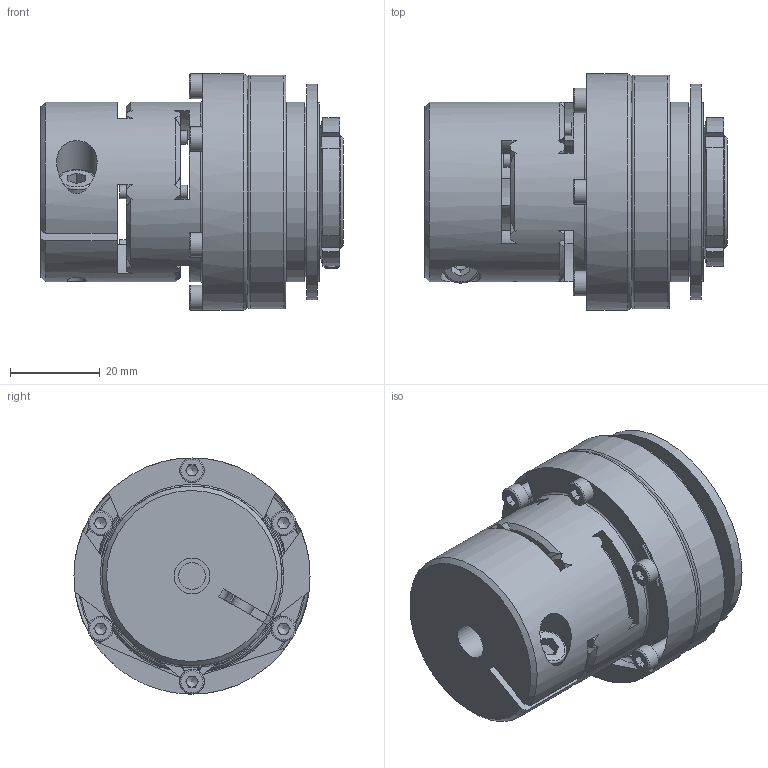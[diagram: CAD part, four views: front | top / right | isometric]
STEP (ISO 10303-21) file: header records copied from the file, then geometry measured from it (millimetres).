
FILE_DESCRIPTION( ( 'Unknown' ), '1' );
FILE_NAME( 'F:/JAKOB-STEP+IGES-Dateien/STEP-Dateien/SKW-EK/SKW-EK 6.stp', 'Unknown', ( 'Unknown' ), ( 'Unknown' ), 'PSStep 10.1', 'Unknown', ' ' );
FILE_SCHEMA( ( 'AUTOMOTIVE_DESIGN { 1 0 10303 214 1 1 1 1 }' ) );
Length unit declared in the file: millimetre
Products named in the file (1): kt102551
Bounding box: 67.2 x 52.5 x 52.5 mm (x, y, z)
Volume: 82322.3 mm3; surface area: 33221.6 mm2
Topology: 1 solids, 11 shells, 447 faces, 1208 edges, 772 vertices
Faces by surface type: plane 199, cylinder 128, cone 64, torus 46, sphere 10
Full cylindrical faces by diameter (mm): 1.5 x2, 2.5 x8, 3 x13, 3.4 x6, 4.2 x1, 5 x1, 5.4 x1, 5.5 x6, 6 x1, 8 x1, 8.5 x1, 9 x1, 9.5 x1, 18 x2, 19 x1, 19.9 x1, 20 x2, 24 x1, 25 x3, 25.2 x1, 27.2 x2, 35.1 x2, 37.9 x2, 39.6 x1, 40 x2, 42 x3, 48 x1, 52 x1, 52.5 x1
Entity records: 17826 total; most frequent: CARTESIAN_POINT 3891, DIRECTION 2170, ORIENTED_EDGE 2006, EDGE_CURVE 1003, AXIS2_PLACEMENT_3D 905, VERTEX_POINT 696, EDGE_LOOP 633, FACE_OUTER_BOUND 532
